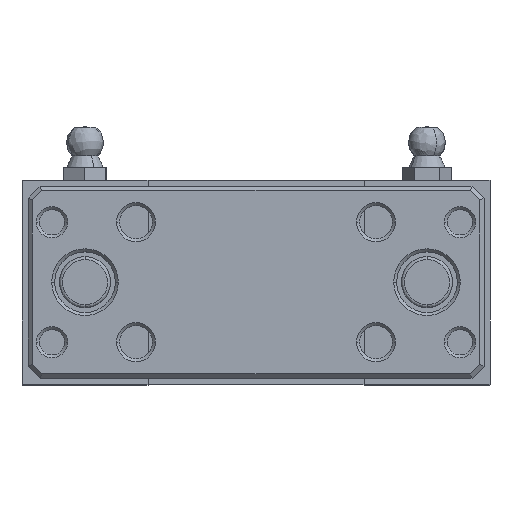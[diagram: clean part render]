
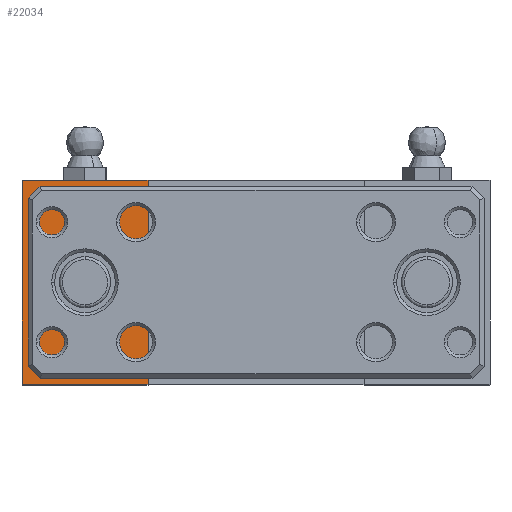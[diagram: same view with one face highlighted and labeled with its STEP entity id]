
A CAD part, top view. The second image highlights one B-rep face of the part: STEP entity #22034.
In plain terms, the highlighted planar face has unit normal (0, 0, 1).
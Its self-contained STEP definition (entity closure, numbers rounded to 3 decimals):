
#204 = CARTESIAN_POINT ( 'NONE',  ( -18., 17., -15. ) ) ;
#300 = DIRECTION ( 'NONE',  ( 0., 1., 0. ) ) ;
#734 = LINE ( 'NONE', #18644, #21906 ) ;
#2047 = LINE ( 'NONE', #204, #22563 ) ;
#4298 = LINE ( 'NONE', #11540, #6825 ) ;
#4373 = CARTESIAN_POINT ( 'NONE',  ( -39., 17., -15. ) ) ;
#4615 = ORIENTED_EDGE ( 'NONE', *, *, #12930, .T. ) ;
#4838 = EDGE_CURVE ( 'NONE', #20083, #11053, #4298, .T. ) ;
#5297 = ORIENTED_EDGE ( 'NONE', *, *, #15674, .F. ) ;
#6557 = CARTESIAN_POINT ( 'NONE',  ( -18., -17., -15. ) ) ;
#6825 = VECTOR ( 'NONE', #25886, 1000. ) ;
#8348 = DIRECTION ( 'NONE',  ( -1., 0., 0. ) ) ;
#8746 = ORIENTED_EDGE ( 'NONE', *, *, #14401, .T. ) ;
#8958 = LINE ( 'NONE', #6557, #16376 ) ;
#10072 = DIRECTION ( 'NONE',  ( 0., 0., 1. ) ) ;
#11053 = VERTEX_POINT ( 'NONE', #4373 ) ;
#11380 = CARTESIAN_POINT ( 'NONE',  ( -18., -17., -15. ) ) ;
#11540 = CARTESIAN_POINT ( 'NONE',  ( -39., -17., -15. ) ) ;
#12452 = DIRECTION ( 'NONE',  ( -1., 0., 0. ) ) ;
#12930 = EDGE_CURVE ( 'NONE', #26330, #14598, #734, .T. ) ;
#14401 = EDGE_CURVE ( 'NONE', #14598, #11053, #2047, .T. ) ;
#14598 = VERTEX_POINT ( 'NONE', #23113 ) ;
#14695 = EDGE_LOOP ( 'NONE', ( #25874, #5297, #4615, #8746 ) ) ;
#15619 = FACE_OUTER_BOUND ( 'NONE', #14695, .T. ) ;
#15674 = EDGE_CURVE ( 'NONE', #26330, #20083, #8958, .T. ) ;
#16376 = VECTOR ( 'NONE', #8348, 1000. ) ;
#16510 = DIRECTION ( 'NONE',  ( 0., 1., 0. ) ) ;
#18644 = CARTESIAN_POINT ( 'NONE',  ( -18., -17., -15. ) ) ;
#20083 = VERTEX_POINT ( 'NONE', #21845 ) ;
#20371 = CARTESIAN_POINT ( 'NONE',  ( -18., -17., -15. ) ) ;
#21845 = CARTESIAN_POINT ( 'NONE',  ( -39., -17., -15. ) ) ;
#21906 = VECTOR ( 'NONE', #300, 1000. ) ;
#22034 = ADVANCED_FACE ( 'NONE', ( #15619 ), #22614, .T. ) ;
#22563 = VECTOR ( 'NONE', #12452, 1000. ) ;
#22614 = PLANE ( 'NONE',  #22972 ) ;
#22972 = AXIS2_PLACEMENT_3D ( 'NONE', #20371, #10072, #16510 ) ;
#23113 = CARTESIAN_POINT ( 'NONE',  ( -18., 17., -15. ) ) ;
#25874 = ORIENTED_EDGE ( 'NONE', *, *, #4838, .F. ) ;
#25886 = DIRECTION ( 'NONE',  ( 0., 1., 0. ) ) ;
#26330 = VERTEX_POINT ( 'NONE', #11380 ) ;
